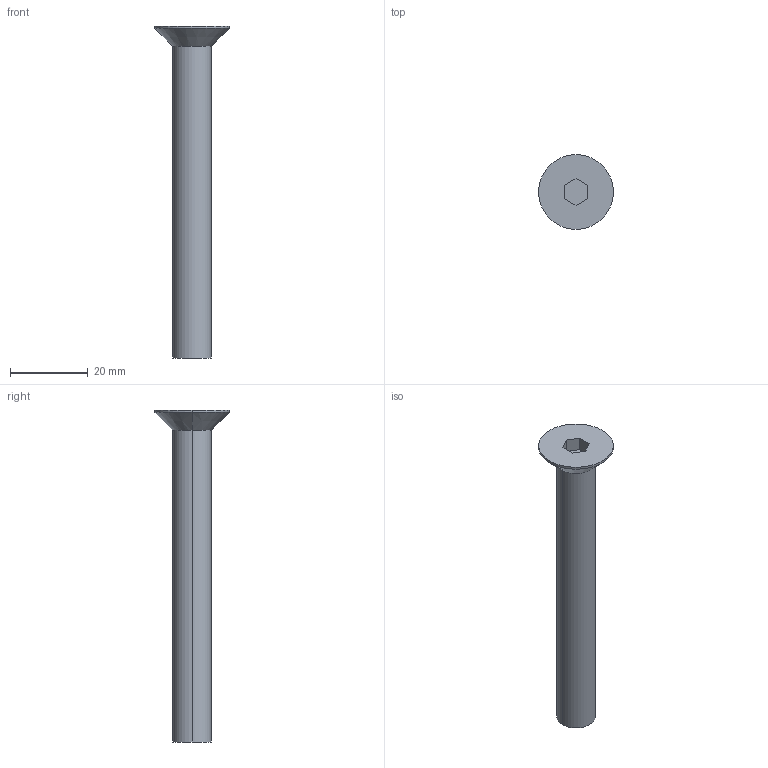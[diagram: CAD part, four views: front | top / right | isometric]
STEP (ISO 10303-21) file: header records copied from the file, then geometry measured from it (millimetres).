
FILE_DESCRIPTION (( 'STEP AP214' ), '1' );
FILE_NAME ('COUNTERSHUNK_HEAD_BOLT_M10(L=080).STEP', '2021-09-18T10:24:00', ( '' ), ( '' ), 'SwSTEP 2.0', 'SolidWorks 2018', '' );
FILE_SCHEMA (( 'AUTOMOTIVE_DESIGN' ));
Length unit declared in the file: millimetre
Products named in the file (1): COUNTERSHUNK_HEAD_BOLT_M10(L=080)
Bounding box: 19.22 x 19.22 x 85.22 mm (x, y, z)
Volume: 7146.4 mm3; surface area: 3292.8 mm2
Topology: 1 solids, 1 shells, 15 faces, 32 edges, 20 vertices
Faces by surface type: plane 9, cylinder 4, cone 2
Entity records: 436 total; most frequent: DIRECTION 72, CARTESIAN_POINT 68, ORIENTED_EDGE 64, EDGE_CURVE 32, VECTOR 24, AXIS2_PLACEMENT_3D 24, LINE 24, VERTEX_POINT 20
